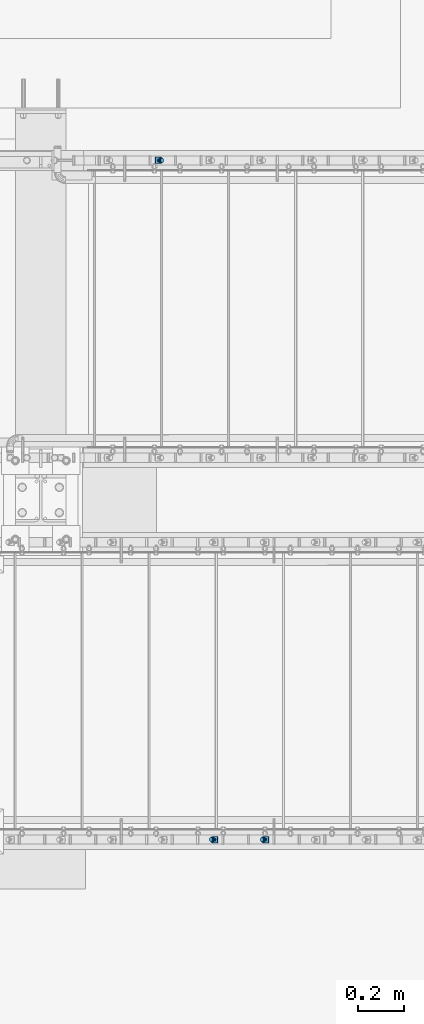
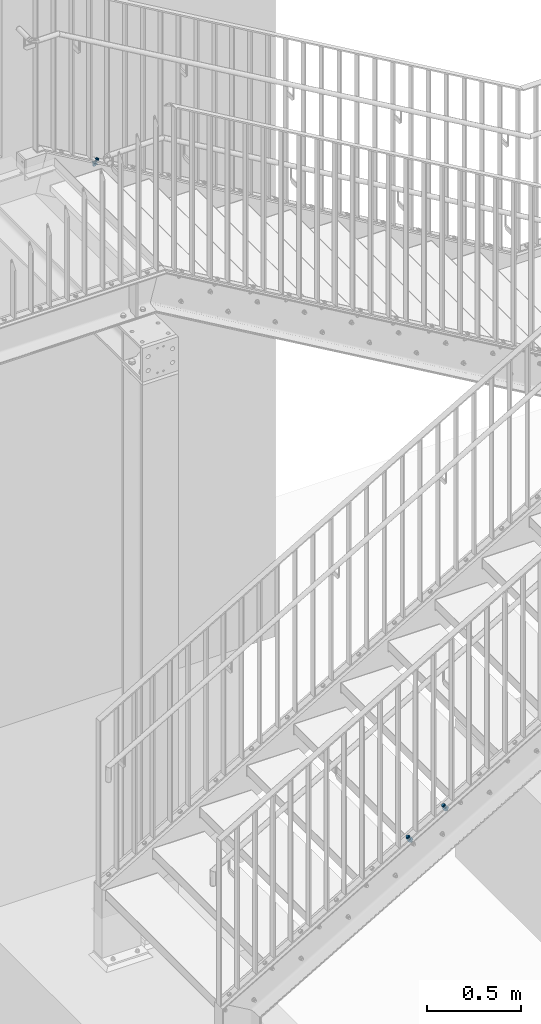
# One storey, part 68 of 145: 3 mechanical fasteners.
"""IFC2X3 building model written with IfcOpenShell, lengths in millimetres."""

import ifcopenshell
import ifcopenshell.guid

model = None  # the IFC model being written
_history = None  # IfcOwnerHistory: only IFC2X3 demands one
_inside = {}  # id of a spatial element -> (the spatial element, [elements in it])
_under = {}  # id of a project, library or spatial element -> (it, [spatial elements below it])
_declared = {}  # id of a project -> (the project, [libraries it declares])
_typed = {}  # id of a type object -> (the type object, [elements of that type])
_made_of = {}  # id of a material, layer set ... -> (it, [elements and type objects made of it])


def new_model(schema):
    """Start an empty IFC model of exactly this schema.

    Asked for "IFC4X3", IfcOpenShell would pick the latest addendum, in which some entities
    have other attributes; the version numbers below select the first issue.
    IFC2X3 requires an IfcOwnerHistory on every rooted entity: one is made here for all.
    """
    global model, _history
    if schema == "IFC4X3":
        model = ifcopenshell.file(schema_version=(4, 3, 0, 0))
    else:
        model = ifcopenshell.file(schema=schema)
    _inside.clear()
    _under.clear()
    _declared.clear()
    _typed.clear()
    _made_of.clear()
    _history = None
    if model.schema == "IFC2X3":
        org = make("IfcOrganization", Name="unknown")
        user = make(
            "IfcPersonAndOrganization",
            ThePerson=make("IfcPerson", FamilyName="unknown"),
            TheOrganization=org,
        )
        app = make(
            "IfcApplication",
            ApplicationDeveloper=org,
            Version="unknown",
            ApplicationFullName="unknown",
            ApplicationIdentifier="unknown",
        )
        _history = make(
            "IfcOwnerHistory",
            OwningUser=user,
            OwningApplication=app,
            ChangeAction="ADDED",
            CreationDate=0,
        )
    return model


def make(cls, **values):
    """One entity of the class cls with the attributes given. An attribute that is None is left unset."""
    return model.create_entity(
        cls, **{name: value for name, value in values.items() if value is not None}
    )


def entity(cls, *values):
    """Any entity or typed value of the class cls, its attributes in the order of the schema. None: left unset."""
    e = model.create_entity(cls)
    for i, value in enumerate(values):
        if value is not None:
            e[i] = value
    return e


def rooted(cls, **values):
    """An entity with a GlobalId (a new one), such as an element, a storey or a relation."""
    return make(cls, GlobalId=ifcopenshell.guid.new(), OwnerHistory=_history, **values)


def si_unit(unit_type, name, prefix=None):
    """IfcSIUnit, for example si_unit("LENGTHUNIT", "METRE", prefix="MILLI")."""
    return make("IfcSIUnit", UnitType=unit_type, Prefix=prefix, Name=name)


def converted_unit(unit_type, name, factor, base, dimensions=None, offset=None):
    """IfcConversionBasedUnit, such as the inch: factor (a typed value) times the base unit."""
    return make(
        "IfcConversionBasedUnit"
        if offset is None
        else "IfcConversionBasedUnitWithOffset",
        ConversionOffset=offset,
        Dimensions=None
        if dimensions is None
        else entity("IfcDimensionalExponents", *dimensions),
        UnitType=unit_type,
        Name=name,
        ConversionFactor=make(
            "IfcMeasureWithUnit", ValueComponent=factor, UnitComponent=base
        ),
    )


def assignment(units):
    """IfcUnitAssignment: the units of a project."""
    return None if units is None else make("IfcUnitAssignment", Units=units)


def point(xyz):
    """IfcCartesianPoint."""
    return None if xyz is None else make("IfcCartesianPoint", Coordinates=xyz)


def direction(xyz):
    """IfcDirection."""
    return None if xyz is None else make("IfcDirection", DirectionRatios=xyz)


def frame(location, z_axis=None, x_axis=None):
    """IfcAxis2Placement3D, a coordinate frame: its origin and axes. An axis left out is left unset."""
    return make(
        "IfcAxis2Placement3D",
        Location=point(location),
        Axis=direction(z_axis),
        RefDirection=direction(x_axis),
    )


def origin_with_axes():
    """The frame at (0, 0, 0) with the z axis (0, 0, 1) and the x axis (1, 0, 0) written out."""
    return frame((0.0, 0.0, 0.0), z_axis=(0.0, 0.0, 1.0), x_axis=(1.0, 0.0, 0.0))


def place(relative_to, where):
    """IfcLocalPlacement: puts the frame where relative to a parent placement (None: the world)."""
    return make(
        "IfcLocalPlacement", PlacementRelTo=relative_to, RelativePlacement=where
    )


def context(
    kind, dimensions, precision=None, world=None, true_north=None, identifier=None
):
    """IfcGeometricRepresentationContext, for example the 3D "Model" context."""
    return make(
        "IfcGeometricRepresentationContext",
        ContextIdentifier=identifier,
        ContextType=kind,
        CoordinateSpaceDimension=dimensions,
        Precision=precision,
        WorldCoordinateSystem=world,
        TrueNorth=true_north,
    )


def project(units=None, contexts=None):
    """IfcProject with its units and contexts."""
    return rooted(
        "IfcProject",
        Name="project",
        RepresentationContexts=contexts,
        UnitsInContext=assignment(units),
    )


def spatial(cls, under=None, at=None, **own):
    """A site, building, storey or space (cls), placed at a placement, below another one or the project."""
    s = rooted(cls, ObjectPlacement=at, **own)
    if under is not None:
        _under.setdefault(under.id(), (under, []))[1].append(s)
    return s


def faces_of(points, faces, orient=None, outer=None):
    """IfcFace entities. A face is a list of loops; a loop is a list of indices into points, from 0.

    orient and outer hold one flag for each loop. By default every Orientation is true, the
    first loop of a face is its IfcFaceOuterBound and the others are IfcFaceBound.
    """
    made = []
    for i, loops in enumerate(faces):
        bounds = []
        for j, loop in enumerate(loops):
            is_outer = j == 0 if outer is None else outer[i][j]
            bounds.append(
                make(
                    "IfcFaceOuterBound" if is_outer else "IfcFaceBound",
                    Bound=make("IfcPolyLoop", Polygon=[points[k] for k in loop]),
                    Orientation=True if orient is None else orient[i][j],
                )
            )
        made.append(make("IfcFace", Bounds=bounds))
    return made


def faceted_brep(points, faces, orient=None, outer=None, voids=None):
    """IfcFacetedBrep: a solid bounded by flat faces; with voids (closed shells), ...WithVoids."""
    shared = [point(p) for p in points]
    hull = make("IfcClosedShell", CfsFaces=faces_of(shared, faces, orient, outer))
    if voids is None:
        return make("IfcFacetedBrep", Outer=hull)
    return make(
        "IfcFacetedBrepWithVoids",
        Outer=hull,
        Voids=[
            make(cls, CfsFaces=faces_of(shared, fs, o, b)) for cls, fs, o, b in voids
        ],
    )


def shape(context_of_items, identifier, shape_type, items):
    """IfcShapeRepresentation: the items that make up one representation, for example the "Body"."""
    return make(
        "IfcShapeRepresentation",
        ContextOfItems=context_of_items,
        RepresentationIdentifier=identifier,
        RepresentationType=shape_type,
        Items=items,
    )


def made_of(thing, what):
    """Note that an element or type object is made of a material, layer set ...; save() writes the relation."""
    if what is not None:
        _made_of.setdefault(what.id(), (what, []))[1].append(thing)
    return thing


def element(
    cls,
    number,
    at=None,
    inside=None,
    cuts=None,
    type_object=None,
    material=None,
    context=None,
    identifier="Body",
    shape_type=None,
    held_by="IfcProductDefinitionShape",
    body=None,
    shapes=None,
    **own,
):
    """One element of the class cls, such as IfcWall. Its Tag is "e" and its number.

    at: its placement. inside: the storey or other place that contains it. cuts: it is an
    opening in that element (IfcRelVoidsElement). A single representation is given by context,
    identifier, shape_type and body (its items); several are given by shapes. held_by: the class
    of the entity that holds the representations. save() writes the other relations.
    """
    e = rooted(cls, Tag="e%d" % number, ObjectPlacement=at, **own)
    if body is not None:
        shapes = [shape(context, identifier, shape_type, body)]
    if shapes is not None:
        e.Representation = make(held_by, Representations=shapes)
    if inside is not None:
        _inside.setdefault(inside.id(), (inside, []))[1].append(e)
    if cuts is not None:
        rooted(
            "IfcRelVoidsElement", RelatingBuildingElement=cuts, RelatedOpeningElement=e
        )
    if type_object is not None:
        _typed.setdefault(type_object.id(), (type_object, []))[1].append(e)
    return made_of(e, material)


def aggregate(whole, parts):
    """IfcRelAggregates: a whole, such as a stair, and the parts it consists of."""
    return rooted("IfcRelAggregates", RelatingObject=whole, RelatedObjects=parts)


def save(model, path):
    """Write the relations noted so far, then the file.

    IfcRelAggregates (storeys below a building ...), IfcRelContainedInSpatialStructure (elements
    in a storey), IfcRelDefinesByType, IfcRelAssociatesMaterial and IfcRelDeclares: one each for
    every whole, place, type object, material and project.
    """
    for whole, parts in _under.values():
        aggregate(whole, parts)
    for where, things in _inside.values():
        rooted(
            "IfcRelContainedInSpatialStructure",
            RelatedElements=things,
            RelatingStructure=where,
        )
    for kind, things in _typed.values():
        rooted("IfcRelDefinesByType", RelatedObjects=things, RelatingType=kind)
    for what, things in _made_of.values():
        rooted("IfcRelAssociatesMaterial", RelatedObjects=things, RelatingMaterial=what)
    for by, libraries in _declared.values():
        rooted("IfcRelDeclares", RelatingContext=by, RelatedDefinitions=libraries)
    model.write(path)


model = new_model("IFC2X3")

# Units and contexts
model_context = context("Model", 3, precision=1e-09, world=origin_with_axes())
ifc_project = project(units=[si_unit("LENGTHUNIT", "METRE", prefix="MILLI"), si_unit("AREAUNIT", "SQUARE_METRE"), si_unit("VOLUMEUNIT", "CUBIC_METRE"), converted_unit("PLANEANGLEUNIT", "DEGREE", entity("IfcPlaneAngleMeasure", 0.01745329), si_unit("PLANEANGLEUNIT", "RADIAN"), dimensions=[0, 0, 0, 0, 0, 0, 0])], contexts=[model_context])

# Site, building, storey
site_placement = place(None, origin_with_axes())
site = spatial("IfcSite", under=ifc_project, at=site_placement, Name="BZ1 Grund- und Mittelschule 85716 Unterschlei?heim", CompositionType="ELEMENT")
building_placement = place(site_placement, origin_with_axes())
building = spatial("IfcBuilding", under=site, at=building_placement, Name="Struktur 1", CompositionType="ELEMENT")
storey_placement = place(building_placement, origin_with_axes())
storey = spatial("IfcBuildingStorey", under=building, at=storey_placement, Name="Default Storey", CompositionType="ELEMENT", Elevation=0.0)

# Mechanical fasteners
mechanical_fastener_1_placement = place(None, origin_with_axes())
element("IfcMechanicalFastener", 1, at=mechanical_fastener_1_placement, inside=storey, ObjectType="-", NominalDiameter=12.0, NominalLength=45.0, context=model_context, shape_type="Brep", body=[
    faceted_brep([(17799.693272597, -3162.502, 400.876415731), (17800.950000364, -3162.502, 398.715250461), (17801.14932605, -3164.843083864, 398.831159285), (17799.892598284, -3164.843083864, 400.992324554), (17801.739643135, -3167.094201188, 399.174431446), (17800.482915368, -3167.094201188, 401.335596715), (17802.698266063, -3169.168842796, 399.731875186), (17801.441538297, -3169.168842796, 401.893040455), (17803.988355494, -3170.987281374, 400.482068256), (17802.731627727, -3170.987281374, 402.643233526), (17805.560334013, -3172.479635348, 401.396181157), (17804.303606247, -3172.479635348, 403.557346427), (17807.353791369, -3173.58855439, 402.439085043), (17806.097063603, -3173.58855439, 404.600250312), (17809.299806, -3174.271423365, 403.570701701), (17808.043078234, -3174.271423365, 405.731866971), (17811.323593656, -3174.502, 404.74754374), (17810.06686589, -3174.502, 406.908709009), (17813.347381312, -3174.271423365, 405.924385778), (17812.090653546, -3174.271423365, 408.085551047), (17815.293395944, -3173.58855439, 407.056002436), (17814.036668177, -3173.58855439, 409.217167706), (17817.086853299, -3172.479635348, 408.098906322), (17815.830125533, -3172.479635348, 410.260071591), (17818.658831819, -3170.987281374, 409.013019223), (17817.402104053, -3170.987281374, 411.174184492), (17819.94892125, -3169.168842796, 409.763212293), (17818.692193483, -3169.168842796, 411.924377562), (17820.907544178, -3167.094201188, 410.320656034), (17819.650816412, -3167.094201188, 412.481821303), (17821.497861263, -3164.843083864, 410.663928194), (17820.241133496, -3164.843083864, 412.825093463), (17821.697186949, -3162.502, 410.779837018), (17820.440459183, -3162.502, 412.941002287), (17821.497861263, -3160.160916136, 410.663928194), (17820.241133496, -3160.160916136, 412.825093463), (17820.907544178, -3157.909798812, 410.320656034), (17819.650816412, -3157.909798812, 412.481821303), (17819.94892125, -3155.835157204, 409.763212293), (17818.692193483, -3155.835157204, 411.924377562), (17818.658831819, -3154.016718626, 409.013019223), (17817.402104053, -3154.016718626, 411.174184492), (17817.086853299, -3152.524364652, 408.098906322), (17815.830125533, -3152.524364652, 410.260071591), (17815.293395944, -3151.41544561, 407.056002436), (17814.036668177, -3151.41544561, 409.217167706), (17813.347381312, -3150.732576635, 405.924385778), (17812.090653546, -3150.732576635, 408.085551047), (17811.323593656, -3150.502, 404.74754374), (17810.06686589, -3150.502, 406.908709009), (17809.299806, -3150.732576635, 403.570701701), (17808.043078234, -3150.732576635, 405.731866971), (17807.353791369, -3151.41544561, 402.439085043), (17806.097063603, -3151.41544561, 404.600250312), (17805.560334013, -3152.524364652, 401.396181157), (17804.303606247, -3152.524364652, 403.557346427), (17803.988355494, -3154.016718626, 400.482068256), (17802.731627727, -3154.016718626, 402.643233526), (17802.698266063, -3155.835157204, 399.731875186), (17801.441538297, -3155.835157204, 401.893040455), (17801.739643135, -3157.909798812, 399.174431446), (17800.482915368, -3157.909798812, 401.335596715), (17801.14932605, -3160.160916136, 398.831159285), (17799.892598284, -3160.160916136, 400.992324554)], [[[0, 1, 2, 3]], [[3, 2, 4, 5]], [[5, 4, 6, 7]], [[7, 6, 8, 9]], [[9, 8, 10, 11]], [[11, 10, 12, 13]], [[13, 12, 14, 15]], [[15, 14, 16, 17]], [[17, 16, 18, 19]], [[19, 18, 20, 21]], [[21, 20, 22, 23]], [[23, 22, 24, 25]], [[25, 24, 26, 27]], [[27, 26, 28, 29]], [[29, 28, 30, 31]], [[31, 30, 32, 33]], [[33, 32, 34, 35]], [[35, 34, 36, 37]], [[37, 36, 38, 39]], [[39, 38, 40, 41]], [[41, 40, 42, 43]], [[43, 42, 44, 45]], [[45, 44, 46, 47]], [[47, 46, 48, 49]], [[49, 48, 50, 51]], [[51, 50, 52, 53]], [[53, 52, 54, 55]], [[55, 54, 56, 57]], [[57, 56, 58, 59]], [[59, 58, 60, 61]], [[61, 60, 62, 63]], [[63, 62, 1, 0]], [[0, 3, 5, 7, 9, 11, 13, 15, 17, 19, 21, 23, 25, 27, 29, 31, 33, 35, 37, 39, 41, 43, 45, 47, 49, 51, 53, 55, 57, 59, 61, 63]], [[1, 62, 60, 58, 56, 54, 52, 50, 48, 46, 44, 42, 40, 38, 36, 34, 32, 30, 28, 26, 24, 22, 20, 18, 16, 14, 12, 10, 8, 6, 4, 2]]]),
    faceted_brep([(17816.718617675, -3166.9445, 410.77673395), (17813.501394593, -3166.9445, 416.309317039), (17806.849642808, -3171.387, 412.441292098), (17810.06686589, -3171.387, 406.908709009), (17800.197891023, -3166.9445, 408.573267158), (17803.415114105, -3166.9445, 403.040684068), (17800.197891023, -3158.0595, 408.573267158), (17803.415114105, -3158.0595, 403.040684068), (17806.849642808, -3153.617, 412.441292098), (17810.06686589, -3153.617, 406.908709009), (17813.501394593, -3158.0595, 416.309317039), (17816.718617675, -3158.0595, 410.77673395)], [[[0, 1, 2, 3]], [[3, 2, 4, 5]], [[5, 4, 6, 7]], [[7, 6, 8, 9]], [[9, 8, 10, 11]], [[11, 10, 1, 0]], [[4, 2, 1, 10, 8, 6]], [[0, 3, 5, 7, 9, 11]]]),
    faceted_brep([(17806.13679701, -3162.502, 401.7313971), (17817.117588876, -3162.502, 382.847986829), (17817.512410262, -3164.798100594, 383.077577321), (17806.531618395, -3164.798100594, 401.960987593), (17818.636766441, -3166.744640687, 383.731395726), (17807.655974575, -3166.744640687, 402.614805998), (17820.319484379, -3168.045277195, 384.70990412), (17809.338692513, -3168.045277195, 403.593314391), (17822.304385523, -3168.502, 385.864133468), (17811.323593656, -3168.502, 404.74754374), (17824.289286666, -3168.045277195, 387.018362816), (17813.3084948, -3168.045277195, 405.901773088), (17825.972004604, -3166.744640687, 387.99687121), (17814.991212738, -3166.744640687, 406.880281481), (17827.096360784, -3164.798100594, 388.650689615), (17816.115568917, -3164.798100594, 407.534099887), (17827.491182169, -3162.502, 388.880280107), (17816.510390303, -3162.502, 407.763690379), (17827.096360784, -3160.205899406, 388.650689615), (17816.115568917, -3160.205899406, 407.534099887), (17825.972004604, -3158.259359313, 387.99687121), (17814.991212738, -3158.259359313, 406.880281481), (17824.289286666, -3156.958722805, 387.018362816), (17813.3084948, -3156.958722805, 405.901773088), (17822.304385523, -3156.502, 385.864133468), (17811.323593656, -3156.502, 404.74754374), (17820.319484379, -3156.958722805, 384.70990412), (17809.338692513, -3156.958722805, 403.593314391), (17818.636766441, -3158.259359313, 383.731395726), (17807.655974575, -3158.259359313, 402.614805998), (17817.512410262, -3160.205899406, 383.077577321), (17806.531618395, -3160.205899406, 401.960987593)], [[[0, 1, 2, 3]], [[3, 2, 4, 5]], [[5, 4, 6, 7]], [[7, 6, 8, 9]], [[9, 8, 10, 11]], [[11, 10, 12, 13]], [[13, 12, 14, 15]], [[15, 14, 16, 17]], [[17, 16, 18, 19]], [[19, 18, 20, 21]], [[21, 20, 22, 23]], [[23, 22, 24, 25]], [[25, 24, 26, 27]], [[27, 26, 28, 29]], [[29, 28, 30, 31]], [[31, 30, 1, 0]], [[0, 3, 5, 7, 9, 11, 13, 15, 17, 19, 21, 23, 25, 27, 29, 31]], [[1, 30, 28, 26, 24, 22, 20, 18, 16, 14, 12, 10, 8, 6, 4, 2]]]),
    faceted_brep([(17836.540546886, -3176.644135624, 389.515394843), (17834.52978246, -3176.644135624, 392.973259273), (17810.078988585, -3176.644135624, 378.755007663), (17812.089753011, -3176.644135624, 375.297143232), (17810.078988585, -3148.359864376, 378.755007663), (17812.089753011, -3148.359864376, 375.297143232), (17834.52978246, -3148.359864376, 392.973259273), (17836.540546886, -3148.359864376, 389.515394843)], [[[0, 1, 2, 3]], [[3, 2, 4, 5]], [[5, 4, 6, 7]], [[7, 6, 1, 0]], [[4, 2, 1, 6]], [[0, 3, 5, 7]]]),
    faceted_brep([(17837.2403144, -3167.777, 378.354479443), (17832.213403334, -3167.777, 386.99914052), (17824.315149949, -3173.052, 382.406269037), (17829.342061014, -3173.052, 373.76160796), (17816.416896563, -3167.777, 377.813397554), (17821.443807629, -3167.777, 369.168736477), (17816.416896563, -3157.227, 377.813397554), (17821.443807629, -3157.227, 369.168736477), (17824.315149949, -3151.952, 382.406269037), (17829.342061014, -3151.952, 373.76160796), (17832.213403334, -3157.227, 386.99914052), (17837.2403144, -3157.227, 378.354479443)], [[[0, 1, 2, 3]], [[3, 2, 4, 5]], [[5, 4, 6, 7]], [[7, 6, 8, 9]], [[9, 8, 10, 11]], [[11, 10, 1, 0]], [[4, 2, 1, 10, 8, 6]], [[0, 3, 5, 7, 9, 11]]]),
    faceted_brep([(17824.155264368, -3162.502, 370.745461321), (17827.501169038, -3162.502, 364.991587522), (17827.895990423, -3164.798100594, 365.221178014), (17824.550085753, -3164.798100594, 370.975051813), (17829.020346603, -3166.744640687, 365.874996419), (17825.674441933, -3166.744640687, 371.628870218), (17830.70306454, -3168.045277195, 366.853504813), (17827.357159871, -3168.045277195, 372.607378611), (17832.687965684, -3168.502, 368.007734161), (17829.342061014, -3168.502, 373.76160796), (17834.672866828, -3168.045277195, 369.161963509), (17831.326962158, -3168.045277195, 374.915837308), (17836.355584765, -3166.744640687, 370.140471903), (17833.009680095, -3166.744640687, 375.894345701), (17837.479940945, -3164.798100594, 370.794290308), (17834.134036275, -3164.798100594, 376.548164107), (17837.87476233, -3162.502, 371.0238808), (17834.52885766, -3162.502, 376.777754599), (17837.479940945, -3160.205899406, 370.794290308), (17834.134036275, -3160.205899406, 376.548164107), (17836.355584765, -3158.259359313, 370.140471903), (17833.009680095, -3158.259359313, 375.894345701), (17834.672866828, -3156.958722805, 369.161963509), (17831.326962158, -3156.958722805, 374.915837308), (17832.687965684, -3156.502, 368.007734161), (17829.342061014, -3156.502, 373.76160796), (17830.70306454, -3156.958722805, 366.853504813), (17827.357159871, -3156.958722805, 372.607378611), (17829.020346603, -3158.259359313, 365.874996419), (17825.674441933, -3158.259359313, 371.628870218), (17827.895990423, -3160.205899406, 365.221178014), (17824.550085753, -3160.205899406, 370.975051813)], [[[0, 1, 2, 3]], [[3, 2, 4, 5]], [[5, 4, 6, 7]], [[7, 6, 8, 9]], [[9, 8, 10, 11]], [[11, 10, 12, 13]], [[13, 12, 14, 15]], [[15, 14, 16, 17]], [[17, 16, 18, 19]], [[19, 18, 20, 21]], [[21, 20, 22, 23]], [[23, 22, 24, 25]], [[25, 24, 26, 27]], [[27, 26, 28, 29]], [[29, 28, 30, 31]], [[31, 30, 1, 0]], [[0, 3, 5, 7, 9, 11, 13, 15, 17, 19, 21, 23, 25, 27, 29, 31]], [[1, 30, 28, 26, 24, 22, 20, 18, 16, 14, 12, 10, 8, 6, 4, 2]]]),
])
mechanical_fastener_2_placement = place(None, origin_with_axes())
element("IfcMechanicalFastener", 2, at=mechanical_fastener_2_placement, inside=storey, ObjectType="-", NominalDiameter=12.0, NominalLength=45.0, context=model_context, shape_type="Brep", body=[
    faceted_brep([(18019.693775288, -3162.502, 528.80774253), (18020.950503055, -3162.502, 526.646577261), (18021.149828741, -3164.843083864, 526.762486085), (18019.893100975, -3164.843083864, 528.923651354), (18021.740145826, -3167.094201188, 527.105758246), (18020.483418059, -3167.094201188, 529.266923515), (18022.698768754, -3169.168842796, 527.663201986), (18021.442040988, -3169.168842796, 529.824367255), (18023.988858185, -3170.987281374, 528.413395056), (18022.732130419, -3170.987281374, 530.574560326), (18025.560836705, -3172.479635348, 529.327507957), (18024.304108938, -3172.479635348, 531.488673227), (18027.35429406, -3173.58855439, 530.370411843), (18026.097566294, -3173.58855439, 532.531577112), (18029.300308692, -3174.271423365, 531.502028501), (18028.043580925, -3174.271423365, 533.663193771), (18031.324096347, -3174.502, 532.67887054), (18030.067368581, -3174.502, 534.840035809), (18033.347884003, -3174.271423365, 533.855712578), (18032.091156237, -3174.271423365, 536.016877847), (18035.293898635, -3173.58855439, 534.987329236), (18034.037170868, -3173.58855439, 537.148494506), (18037.08735599, -3172.479635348, 536.030233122), (18035.830628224, -3172.479635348, 538.191398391), (18038.65933451, -3170.987281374, 536.944346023), (18037.402606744, -3170.987281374, 539.105511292), (18039.949423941, -3169.168842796, 537.694539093), (18038.692696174, -3169.168842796, 539.855704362), (18040.908046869, -3167.094201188, 538.251982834), (18039.651319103, -3167.094201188, 540.413148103), (18041.498363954, -3164.843083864, 538.595254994), (18040.241636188, -3164.843083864, 540.756420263), (18041.69768964, -3162.502, 538.711163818), (18040.440961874, -3162.502, 540.872329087), (18041.498363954, -3160.160916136, 538.595254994), (18040.241636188, -3160.160916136, 540.756420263), (18040.908046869, -3157.909798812, 538.251982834), (18039.651319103, -3157.909798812, 540.413148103), (18039.949423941, -3155.835157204, 537.694539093), (18038.692696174, -3155.835157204, 539.855704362), (18038.65933451, -3154.016718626, 536.944346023), (18037.402606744, -3154.016718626, 539.105511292), (18037.08735599, -3152.524364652, 536.030233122), (18035.830628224, -3152.524364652, 538.191398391), (18035.293898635, -3151.41544561, 534.987329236), (18034.037170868, -3151.41544561, 537.148494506), (18033.347884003, -3150.732576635, 533.855712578), (18032.091156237, -3150.732576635, 536.016877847), (18031.324096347, -3150.502, 532.67887054), (18030.067368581, -3150.502, 534.840035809), (18029.300308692, -3150.732576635, 531.502028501), (18028.043580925, -3150.732576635, 533.663193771), (18027.35429406, -3151.41544561, 530.370411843), (18026.097566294, -3151.41544561, 532.531577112), (18025.560836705, -3152.524364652, 529.327507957), (18024.304108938, -3152.524364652, 531.488673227), (18023.988858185, -3154.016718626, 528.413395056), (18022.732130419, -3154.016718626, 530.574560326), (18022.698768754, -3155.835157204, 527.663201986), (18021.442040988, -3155.835157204, 529.824367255), (18021.740145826, -3157.909798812, 527.105758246), (18020.483418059, -3157.909798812, 529.266923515), (18021.149828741, -3160.160916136, 526.762486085), (18019.893100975, -3160.160916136, 528.923651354)], [[[0, 1, 2, 3]], [[3, 2, 4, 5]], [[5, 4, 6, 7]], [[7, 6, 8, 9]], [[9, 8, 10, 11]], [[11, 10, 12, 13]], [[13, 12, 14, 15]], [[15, 14, 16, 17]], [[17, 16, 18, 19]], [[19, 18, 20, 21]], [[21, 20, 22, 23]], [[23, 22, 24, 25]], [[25, 24, 26, 27]], [[27, 26, 28, 29]], [[29, 28, 30, 31]], [[31, 30, 32, 33]], [[33, 32, 34, 35]], [[35, 34, 36, 37]], [[37, 36, 38, 39]], [[39, 38, 40, 41]], [[41, 40, 42, 43]], [[43, 42, 44, 45]], [[45, 44, 46, 47]], [[47, 46, 48, 49]], [[49, 48, 50, 51]], [[51, 50, 52, 53]], [[53, 52, 54, 55]], [[55, 54, 56, 57]], [[57, 56, 58, 59]], [[59, 58, 60, 61]], [[61, 60, 62, 63]], [[63, 62, 1, 0]], [[0, 3, 5, 7, 9, 11, 13, 15, 17, 19, 21, 23, 25, 27, 29, 31, 33, 35, 37, 39, 41, 43, 45, 47, 49, 51, 53, 55, 57, 59, 61, 63]], [[1, 62, 60, 58, 56, 54, 52, 50, 48, 46, 44, 42, 40, 38, 36, 34, 32, 30, 28, 26, 24, 22, 20, 18, 16, 14, 12, 10, 8, 6, 4, 2]]]),
    faceted_brep([(18036.719120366, -3166.9445, 538.70806075), (18033.501897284, -3166.9445, 544.240643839), (18026.850145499, -3171.387, 540.372618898), (18030.067368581, -3171.387, 534.840035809), (18020.198393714, -3166.9445, 536.504593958), (18023.415616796, -3166.9445, 530.972010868), (18020.198393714, -3158.0595, 536.504593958), (18023.415616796, -3158.0595, 530.972010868), (18026.850145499, -3153.617, 540.372618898), (18030.067368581, -3153.617, 534.840035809), (18033.501897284, -3158.0595, 544.240643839), (18036.719120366, -3158.0595, 538.70806075)], [[[0, 1, 2, 3]], [[3, 2, 4, 5]], [[5, 4, 6, 7]], [[7, 6, 8, 9]], [[9, 8, 10, 11]], [[11, 10, 1, 0]], [[4, 2, 1, 10, 8, 6]], [[0, 3, 5, 7, 9, 11]]]),
    faceted_brep([(18026.137299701, -3162.502, 529.6627239), (18037.118091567, -3162.502, 510.779313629), (18037.512912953, -3164.798100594, 511.008904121), (18026.532121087, -3164.798100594, 529.892314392), (18038.637269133, -3166.744640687, 511.662722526), (18027.656477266, -3166.744640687, 530.546132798), (18040.31998707, -3168.045277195, 512.64123092), (18029.339195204, -3168.045277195, 531.524641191), (18042.304888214, -3168.502, 513.795460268), (18031.324096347, -3168.502, 532.678870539), (18044.289789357, -3168.045277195, 514.949689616), (18033.308997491, -3168.045277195, 533.833099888), (18045.972507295, -3166.744640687, 515.92819801), (18034.991715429, -3166.744640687, 534.811608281), (18047.096863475, -3164.798100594, 516.582016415), (18036.116071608, -3164.798100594, 535.465426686), (18047.49168486, -3162.502, 516.811606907), (18036.510892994, -3162.502, 535.695017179), (18047.096863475, -3160.205899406, 516.582016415), (18036.116071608, -3160.205899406, 535.465426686), (18045.972507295, -3158.259359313, 515.92819801), (18034.991715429, -3158.259359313, 534.811608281), (18044.289789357, -3156.958722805, 514.949689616), (18033.308997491, -3156.958722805, 533.833099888), (18042.304888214, -3156.502, 513.795460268), (18031.324096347, -3156.502, 532.678870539), (18040.31998707, -3156.958722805, 512.64123092), (18029.339195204, -3156.958722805, 531.524641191), (18038.637269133, -3158.259359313, 511.662722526), (18027.656477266, -3158.259359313, 530.546132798), (18037.512912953, -3160.205899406, 511.008904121), (18026.532121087, -3160.205899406, 529.892314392)], [[[0, 1, 2, 3]], [[3, 2, 4, 5]], [[5, 4, 6, 7]], [[7, 6, 8, 9]], [[9, 8, 10, 11]], [[11, 10, 12, 13]], [[13, 12, 14, 15]], [[15, 14, 16, 17]], [[17, 16, 18, 19]], [[19, 18, 20, 21]], [[21, 20, 22, 23]], [[23, 22, 24, 25]], [[25, 24, 26, 27]], [[27, 26, 28, 29]], [[29, 28, 30, 31]], [[31, 30, 1, 0]], [[0, 3, 5, 7, 9, 11, 13, 15, 17, 19, 21, 23, 25, 27, 29, 31]], [[1, 30, 28, 26, 24, 22, 20, 18, 16, 14, 12, 10, 8, 6, 4, 2]]]),
    faceted_brep([(18056.541049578, -3176.644135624, 517.446721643), (18054.530285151, -3176.644135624, 520.904586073), (18030.079491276, -3176.644135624, 506.686334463), (18032.090255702, -3176.644135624, 503.228470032), (18030.079491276, -3148.359864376, 506.686334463), (18032.090255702, -3148.359864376, 503.228470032), (18054.530285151, -3148.359864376, 520.904586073), (18056.541049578, -3148.359864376, 517.446721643)], [[[0, 1, 2, 3]], [[3, 2, 4, 5]], [[5, 4, 6, 7]], [[7, 6, 1, 0]], [[4, 2, 1, 6]], [[0, 3, 5, 7]]]),
    faceted_brep([(18057.240817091, -3167.777, 506.285806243), (18052.213906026, -3167.777, 514.93046732), (18044.31565264, -3173.052, 510.337595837), (18049.342563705, -3173.052, 501.69293476), (18036.417399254, -3167.777, 505.744724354), (18041.44431032, -3167.777, 497.100063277), (18036.417399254, -3157.227, 505.744724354), (18041.44431032, -3157.227, 497.100063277), (18044.31565264, -3151.952, 510.337595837), (18049.342563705, -3151.952, 501.69293476), (18052.213906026, -3157.227, 514.93046732), (18057.240817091, -3157.227, 506.285806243)], [[[0, 1, 2, 3]], [[3, 2, 4, 5]], [[5, 4, 6, 7]], [[7, 6, 8, 9]], [[9, 8, 10, 11]], [[11, 10, 1, 0]], [[4, 2, 1, 10, 8, 6]], [[0, 3, 5, 7, 9, 11]]]),
    faceted_brep([(18044.155767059, -3162.502, 498.676788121), (18047.501671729, -3162.502, 492.922914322), (18047.896493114, -3164.798100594, 493.152504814), (18044.550588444, -3164.798100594, 498.906378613), (18049.020849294, -3166.744640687, 493.806323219), (18045.674944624, -3166.744640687, 499.560197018), (18050.703567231, -3168.045277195, 494.784831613), (18047.357662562, -3168.045277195, 500.538705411), (18052.688468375, -3168.502, 495.939060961), (18049.342563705, -3168.502, 501.69293476), (18054.673369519, -3168.045277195, 497.093290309), (18051.327464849, -3168.045277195, 502.847164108), (18056.356087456, -3166.744640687, 498.071798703), (18053.010182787, -3166.744640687, 503.825672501), (18057.480443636, -3164.798100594, 498.725617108), (18054.134538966, -3164.798100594, 504.479490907), (18057.875265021, -3162.502, 498.9552076), (18054.529360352, -3162.502, 504.709081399), (18057.480443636, -3160.205899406, 498.725617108), (18054.134538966, -3160.205899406, 504.479490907), (18056.356087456, -3158.259359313, 498.071798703), (18053.010182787, -3158.259359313, 503.825672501), (18054.673369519, -3156.958722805, 497.093290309), (18051.327464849, -3156.958722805, 502.847164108), (18052.688468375, -3156.502, 495.939060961), (18049.342563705, -3156.502, 501.69293476), (18050.703567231, -3156.958722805, 494.784831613), (18047.357662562, -3156.958722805, 500.538705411), (18049.020849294, -3158.259359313, 493.806323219), (18045.674944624, -3158.259359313, 499.560197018), (18047.896493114, -3160.205899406, 493.152504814), (18044.550588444, -3160.205899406, 498.906378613)], [[[0, 1, 2, 3]], [[3, 2, 4, 5]], [[5, 4, 6, 7]], [[7, 6, 8, 9]], [[9, 8, 10, 11]], [[11, 10, 12, 13]], [[13, 12, 14, 15]], [[15, 14, 16, 17]], [[17, 16, 18, 19]], [[19, 18, 20, 21]], [[21, 20, 22, 23]], [[23, 22, 24, 25]], [[25, 24, 26, 27]], [[27, 26, 28, 29]], [[29, 28, 30, 31]], [[31, 30, 1, 0]], [[0, 3, 5, 7, 9, 11, 13, 15, 17, 19, 21, 23, 25, 27, 29, 31]], [[1, 30, 28, 26, 24, 22, 20, 18, 16, 14, 12, 10, 8, 6, 4, 2]]]),
])
mechanical_fastener_3_placement = place(None, origin_with_axes())
element("IfcMechanicalFastener", 3, at=mechanical_fastener_3_placement, inside=storey, ObjectType="-", NominalDiameter=12.0, NominalLength=45.0, context=model_context, shape_type="Brep", body=[
    faceted_brep([(17601.993105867, -227.502, 3110.688912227), (17600.736378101, -227.502, 3108.527746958), (17600.537052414, -225.160916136, 3108.643655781), (17601.793780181, -225.160916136, 3110.804821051), (17599.94673533, -222.909798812, 3108.986927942), (17601.203463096, -222.909798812, 3111.148093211), (17598.988112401, -220.835157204, 3109.544371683), (17600.244840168, -220.835157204, 3111.705536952), (17597.698022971, -219.016718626, 3110.294564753), (17598.954750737, -219.016718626, 3112.455730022), (17596.126044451, -217.524364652, 3111.208677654), (17597.382772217, -217.524364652, 3113.369842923), (17594.332587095, -216.41544561, 3112.251581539), (17595.589314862, -216.41544561, 3114.412746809), (17592.386572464, -215.732576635, 3113.383198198), (17593.64330023, -215.732576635, 3115.544363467), (17590.362784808, -215.502, 3114.560040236), (17591.619512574, -215.502, 3116.721205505), (17588.338997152, -215.732576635, 3115.736882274), (17589.595724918, -215.732576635, 3117.898047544), (17586.392982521, -216.41544561, 3116.868498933), (17587.649710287, -216.41544561, 3119.029664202), (17584.599525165, -217.524364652, 3117.911402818), (17585.856252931, -217.524364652, 3120.072568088), (17583.027546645, -219.016718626, 3118.825515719), (17584.284274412, -219.016718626, 3120.986680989), (17581.737457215, -220.835157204, 3119.575708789), (17582.994184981, -220.835157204, 3121.736874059), (17580.778834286, -222.909798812, 3120.13315253), (17582.035562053, -222.909798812, 3122.294317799), (17580.188517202, -225.160916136, 3120.476424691), (17581.445244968, -225.160916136, 3122.63758996), (17579.989191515, -227.502, 3120.592333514), (17581.245919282, -227.502, 3122.753498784), (17580.188517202, -229.843083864, 3120.476424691), (17581.445244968, -229.843083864, 3122.63758996), (17580.778834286, -232.094201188, 3120.13315253), (17582.035562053, -232.094201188, 3122.294317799), (17581.737457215, -234.168842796, 3119.575708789), (17582.994184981, -234.168842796, 3121.736874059), (17583.027546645, -235.987281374, 3118.825515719), (17584.284274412, -235.987281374, 3120.986680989), (17584.599525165, -237.479635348, 3117.911402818), (17585.856252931, -237.479635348, 3120.072568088), (17586.392982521, -238.58855439, 3116.868498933), (17587.649710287, -238.58855439, 3119.029664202), (17588.338997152, -239.271423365, 3115.736882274), (17589.595724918, -239.271423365, 3117.898047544), (17590.362784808, -239.502, 3114.560040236), (17591.619512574, -239.502, 3116.721205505), (17592.386572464, -239.271423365, 3113.383198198), (17593.64330023, -239.271423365, 3115.544363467), (17594.332587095, -238.58855439, 3112.251581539), (17595.589314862, -238.58855439, 3114.412746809), (17596.126044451, -237.479635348, 3111.208677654), (17597.382772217, -237.479635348, 3113.369842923), (17597.698022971, -235.987281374, 3110.294564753), (17598.954750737, -235.987281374, 3112.455730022), (17598.988112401, -234.168842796, 3109.544371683), (17600.244840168, -234.168842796, 3111.705536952), (17599.94673533, -232.094201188, 3108.986927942), (17601.203463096, -232.094201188, 3111.148093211), (17600.537052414, -229.843083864, 3108.643655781), (17601.793780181, -229.843083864, 3110.804821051)], [[[0, 1, 2, 3]], [[3, 2, 4, 5]], [[5, 4, 6, 7]], [[7, 6, 8, 9]], [[9, 8, 10, 11]], [[11, 10, 12, 13]], [[13, 12, 14, 15]], [[15, 14, 16, 17]], [[17, 16, 18, 19]], [[19, 18, 20, 21]], [[21, 20, 22, 23]], [[23, 22, 24, 25]], [[25, 24, 26, 27]], [[27, 26, 28, 29]], [[29, 28, 30, 31]], [[31, 30, 32, 33]], [[33, 32, 34, 35]], [[35, 34, 36, 37]], [[37, 36, 38, 39]], [[39, 38, 40, 41]], [[41, 40, 42, 43]], [[43, 42, 44, 45]], [[45, 44, 46, 47]], [[47, 46, 48, 49]], [[49, 48, 50, 51]], [[51, 50, 52, 53]], [[53, 52, 54, 55]], [[55, 54, 56, 57]], [[57, 56, 58, 59]], [[59, 58, 60, 61]], [[61, 60, 62, 63]], [[63, 62, 1, 0]], [[0, 3, 5, 7, 9, 11, 13, 15, 17, 19, 21, 23, 25, 27, 29, 31, 33, 35, 37, 39, 41, 43, 45, 47, 49, 51, 53, 55, 57, 59, 61, 63]], [[1, 62, 60, 58, 56, 54, 52, 50, 48, 46, 44, 42, 40, 38, 36, 34, 32, 30, 28, 26, 24, 22, 20, 18, 16, 14, 12, 10, 8, 6, 4, 2]]]),
    faceted_brep([(17584.967760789, -223.0595, 3120.589230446), (17588.184983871, -223.0595, 3126.121813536), (17594.836735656, -218.617, 3122.253788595), (17591.619512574, -218.617, 3116.721205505), (17601.488487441, -223.0595, 3118.385763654), (17598.271264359, -223.0595, 3112.853180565), (17601.488487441, -231.9445, 3118.385763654), (17598.271264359, -231.9445, 3112.853180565), (17594.836735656, -236.387, 3122.253788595), (17591.619512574, -236.387, 3116.721205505), (17588.184983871, -231.9445, 3126.121813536), (17584.967760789, -231.9445, 3120.589230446)], [[[0, 1, 2, 3]], [[3, 2, 4, 5]], [[5, 4, 6, 7]], [[7, 6, 8, 9]], [[9, 8, 10, 11]], [[11, 10, 1, 0]], [[4, 2, 1, 10, 8, 6]], [[0, 3, 5, 7, 9, 11]]]),
    faceted_brep([(17595.549581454, -227.502, 3111.543893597), (17584.568789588, -227.502, 3092.660483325), (17584.173968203, -225.205899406, 3092.890073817), (17595.154760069, -225.205899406, 3111.773484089), (17583.049612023, -223.259359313, 3093.543892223), (17594.030403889, -223.259359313, 3112.427302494), (17581.366894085, -221.958722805, 3094.522400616), (17592.347685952, -221.958722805, 3113.405810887), (17579.381992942, -221.502, 3095.676629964), (17590.362784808, -221.502, 3114.560040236), (17577.397091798, -221.958722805, 3096.830859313), (17588.377883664, -221.958722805, 3115.714269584), (17575.71437386, -223.259359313, 3097.809367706), (17586.695165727, -223.259359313, 3116.692777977), (17574.590017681, -225.205899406, 3098.463186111), (17585.570809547, -225.205899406, 3117.346596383), (17574.195196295, -227.502, 3098.692776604), (17585.175988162, -227.502, 3117.576186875), (17574.590017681, -229.798100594, 3098.463186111), (17585.570809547, -229.798100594, 3117.346596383), (17575.71437386, -231.744640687, 3097.809367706), (17586.695165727, -231.744640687, 3116.692777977), (17577.397091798, -233.045277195, 3096.830859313), (17588.377883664, -233.045277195, 3115.714269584), (17579.381992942, -233.502, 3095.676629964), (17590.362784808, -233.502, 3114.560040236), (17581.366894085, -233.045277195, 3094.522400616), (17592.347685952, -233.045277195, 3113.405810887), (17583.049612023, -231.744640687, 3093.543892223), (17594.030403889, -231.744640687, 3112.427302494), (17584.173968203, -229.798100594, 3092.890073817), (17595.154760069, -229.798100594, 3111.773484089)], [[[0, 1, 2, 3]], [[3, 2, 4, 5]], [[5, 4, 6, 7]], [[7, 6, 8, 9]], [[9, 8, 10, 11]], [[11, 10, 12, 13]], [[13, 12, 14, 15]], [[15, 14, 16, 17]], [[17, 16, 18, 19]], [[19, 18, 20, 21]], [[21, 20, 22, 23]], [[23, 22, 24, 25]], [[25, 24, 26, 27]], [[27, 26, 28, 29]], [[29, 28, 30, 31]], [[31, 30, 1, 0]], [[0, 3, 5, 7, 9, 11, 13, 15, 17, 19, 21, 23, 25, 27, 29, 31]], [[1, 30, 28, 26, 24, 22, 20, 18, 16, 14, 12, 10, 8, 6, 4, 2]]]),
    faceted_brep([(17565.145831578, -213.359864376, 3099.327891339), (17567.156596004, -213.359864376, 3102.78575577), (17591.607389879, -213.359864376, 3088.567504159), (17589.596625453, -213.359864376, 3085.109639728), (17591.607389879, -241.644135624, 3088.567504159), (17589.596625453, -241.644135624, 3085.109639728), (17567.156596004, -241.644135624, 3102.78575577), (17565.145831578, -241.644135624, 3099.327891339)], [[[0, 1, 2, 3]], [[3, 2, 4, 5]], [[5, 4, 6, 7]], [[7, 6, 1, 0]], [[4, 2, 1, 6]], [[0, 3, 5, 7]]]),
    faceted_brep([(17564.446064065, -222.227, 3088.166975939), (17569.47297513, -222.227, 3096.811637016), (17577.371228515, -216.952, 3092.218765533), (17572.34431745, -216.952, 3083.574104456), (17585.269481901, -222.227, 3087.625894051), (17580.242570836, -222.227, 3078.981232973), (17585.269481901, -232.777, 3087.625894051), (17580.242570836, -232.777, 3078.981232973), (17577.371228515, -238.052, 3092.218765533), (17572.34431745, -238.052, 3083.574104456), (17569.47297513, -232.777, 3096.811637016), (17564.446064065, -232.777, 3088.166975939)], [[[0, 1, 2, 3]], [[3, 2, 4, 5]], [[5, 4, 6, 7]], [[7, 6, 8, 9]], [[9, 8, 10, 11]], [[11, 10, 1, 0]], [[4, 2, 1, 10, 8, 6]], [[0, 3, 5, 7, 9, 11]]]),
    faceted_brep([(17577.531114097, -227.502, 3080.557957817), (17574.185209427, -227.502, 3074.804084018), (17573.790388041, -225.205899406, 3075.03367451), (17577.136292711, -225.205899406, 3080.787548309), (17572.666031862, -223.259359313, 3075.687492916), (17576.011936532, -223.259359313, 3081.441366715), (17570.983313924, -221.958722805, 3076.666001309), (17574.329218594, -221.958722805, 3082.419875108), (17568.99841278, -221.502, 3077.820230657), (17572.34431745, -221.502, 3083.574104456), (17567.013511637, -221.958722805, 3078.974460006), (17570.359416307, -221.958722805, 3084.728333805), (17565.330793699, -223.259359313, 3079.952968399), (17568.676698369, -223.259359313, 3085.706842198), (17564.20643752, -225.205899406, 3080.606786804), (17567.552342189, -225.205899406, 3086.360660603), (17563.811616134, -227.502, 3080.836377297), (17567.157520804, -227.502, 3086.590251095), (17564.20643752, -229.798100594, 3080.606786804), (17567.552342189, -229.798100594, 3086.360660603), (17565.330793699, -231.744640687, 3079.952968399), (17568.676698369, -231.744640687, 3085.706842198), (17567.013511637, -233.045277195, 3078.974460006), (17570.359416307, -233.045277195, 3084.728333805), (17568.99841278, -233.502, 3077.820230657), (17572.34431745, -233.502, 3083.574104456), (17570.983313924, -233.045277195, 3076.666001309), (17574.329218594, -233.045277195, 3082.419875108), (17572.666031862, -231.744640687, 3075.687492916), (17576.011936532, -231.744640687, 3081.441366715), (17573.790388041, -229.798100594, 3075.03367451), (17577.136292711, -229.798100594, 3080.787548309)], [[[0, 1, 2, 3]], [[3, 2, 4, 5]], [[5, 4, 6, 7]], [[7, 6, 8, 9]], [[9, 8, 10, 11]], [[11, 10, 12, 13]], [[13, 12, 14, 15]], [[15, 14, 16, 17]], [[17, 16, 18, 19]], [[19, 18, 20, 21]], [[21, 20, 22, 23]], [[23, 22, 24, 25]], [[25, 24, 26, 27]], [[27, 26, 28, 29]], [[29, 28, 30, 31]], [[31, 30, 1, 0]], [[0, 3, 5, 7, 9, 11, 13, 15, 17, 19, 21, 23, 25, 27, 29, 31]], [[1, 30, 28, 26, 24, 22, 20, 18, 16, 14, 12, 10, 8, 6, 4, 2]]]),
])

save(model, "model.ifc")
